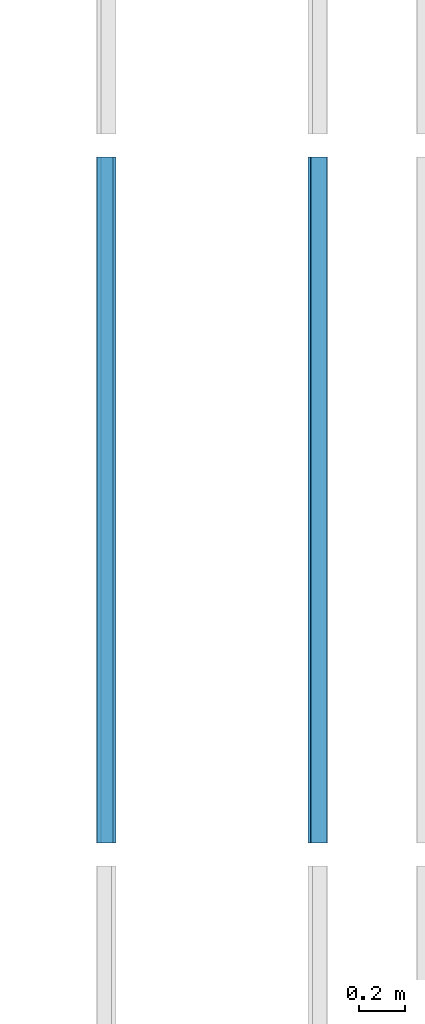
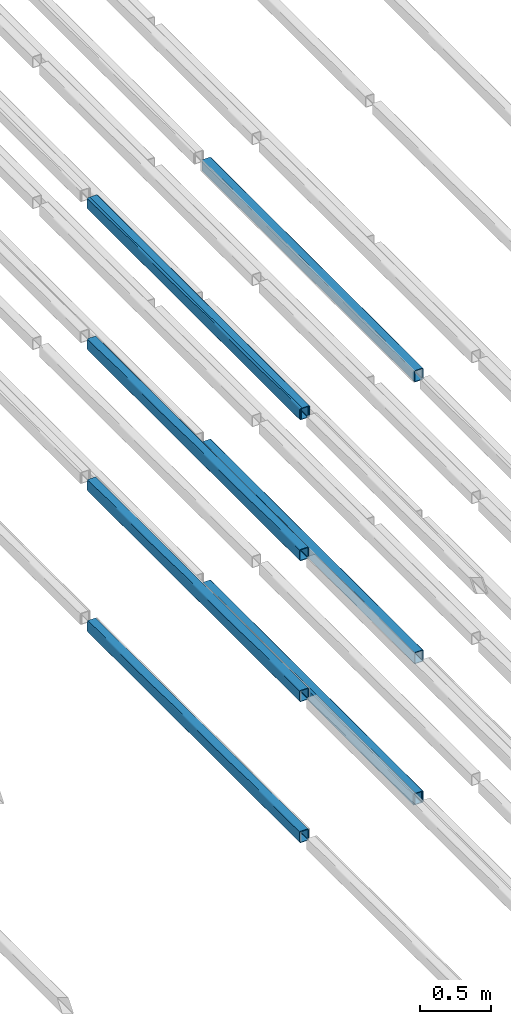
# One storey, part 41 of 290: 9 beams.
"""IFC2X3 building model written with IfcOpenShell, lengths in metres."""

from ifc_helpers import new_model, entity, si_unit, converted_unit, derived_unit, direction, frame, frame_2d, origin, place, context, subcontext, project, spatial, polyline, circle_curve, parameter, trimmed, segment, composite_curve, outline, extrude, material, type_object, element, save


model = new_model("IFC2X3")

# Units and contexts
model_context = context("Model", 3, precision=1e-05, world=origin(), true_north=direction((6.12303176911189e-17, 1.0)))
body_context = subcontext(model_context, "Body", "Model", "MODEL_VIEW")
ifc_project = project(units=[si_unit("LENGTHUNIT", "METRE"), si_unit("AREAUNIT", "SQUARE_METRE"), si_unit("VOLUMEUNIT", "CUBIC_METRE"), converted_unit("PLANEANGLEUNIT", "DEGREE", entity("IfcRatioMeasure", 0.0174532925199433), si_unit("PLANEANGLEUNIT", "RADIAN"), dimensions=[0, 0, 0, 0, 0, 0, 0]), si_unit("MASSUNIT", "GRAM", prefix="KILO"), derived_unit("MASSDENSITYUNIT", [(si_unit("MASSUNIT", "GRAM", prefix="KILO"), 1), (si_unit("LENGTHUNIT", "METRE"), -3)]), derived_unit("MOMENTOFINERTIAUNIT", [(si_unit("LENGTHUNIT", "METRE"), 4)]), si_unit("TIMEUNIT", "SECOND"), si_unit("FREQUENCYUNIT", "HERTZ"), si_unit("THERMODYNAMICTEMPERATUREUNIT", "DEGREE_CELSIUS"), derived_unit("THERMALTRANSMITTANCEUNIT", [(si_unit("MASSUNIT", "GRAM", prefix="KILO"), 1), (si_unit("THERMODYNAMICTEMPERATUREUNIT", "KELVIN"), -1), (si_unit("TIMEUNIT", "SECOND"), -3)]), derived_unit("VOLUMETRICFLOWRATEUNIT", [(si_unit("LENGTHUNIT", "METRE"), 3), (si_unit("TIMEUNIT", "SECOND"), -1)]), si_unit("ELECTRICCURRENTUNIT", "AMPERE"), si_unit("ELECTRICVOLTAGEUNIT", "VOLT"), si_unit("POWERUNIT", "WATT"), si_unit("FORCEUNIT", "NEWTON", prefix="KILO"), si_unit("ILLUMINANCEUNIT", "LUX"), si_unit("LUMINOUSFLUXUNIT", "LUMEN"), si_unit("LUMINOUSINTENSITYUNIT", "CANDELA"), derived_unit("USERDEFINED", [(si_unit("MASSUNIT", "GRAM", prefix="KILO"), -1), (si_unit("LENGTHUNIT", "METRE"), -2), (si_unit("TIMEUNIT", "SECOND"), 3), (si_unit("LUMINOUSFLUXUNIT", "LUMEN"), 1)]), derived_unit("LINEARVELOCITYUNIT", [(si_unit("LENGTHUNIT", "METRE"), 1), (si_unit("TIMEUNIT", "SECOND"), -1)]), si_unit("PRESSUREUNIT", "PASCAL"), derived_unit("USERDEFINED", [(si_unit("LENGTHUNIT", "METRE"), -2), (si_unit("MASSUNIT", "GRAM", prefix="KILO"), 1), (si_unit("TIMEUNIT", "SECOND"), -2)]), derived_unit("LINEARFORCEUNIT", [(si_unit("MASSUNIT", "GRAM", prefix="KILO"), 1), (si_unit("LENGTHUNIT", "METRE"), 1), (si_unit("TIMEUNIT", "SECOND"), -2), (si_unit("LENGTHUNIT", "METRE"), -1)]), derived_unit("PLANARFORCEUNIT", [(si_unit("MASSUNIT", "GRAM", prefix="KILO"), 1), (si_unit("LENGTHUNIT", "METRE"), 1), (si_unit("TIMEUNIT", "SECOND"), -2), (si_unit("LENGTHUNIT", "METRE"), -2)])], contexts=[model_context])

# Site, building, storey
site_placement = place(None, origin())
site = spatial("IfcSite", under=ifc_project, at=site_placement, Name="Default", CompositionType="ELEMENT")
building_placement = place(site_placement, origin())
building = spatial("IfcBuilding", under=site, at=building_placement, CompositionType="ELEMENT")
storey_placement = place(building_placement, frame((0.0, 0.0, 4.0)))
storey = spatial("IfcBuildingStorey", under=building, at=storey_placement, Name="01_OG", CompositionType="ELEMENT", Elevation=4.0)

# Beams
ifc_material = material(Name="Metall - Baustahl S235 blau")
beam_type = type_object("IfcBeamType", Name="RHS Träger (EN 10219-2):RHS 100 x 75 x 5", PredefinedType="NOTDEFINED")
beam_1_placement = place(storey_placement, frame((-202.105111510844, 33.348088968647, 2.445), z_axis=(0.0, 0.0, 1.0), x_axis=(0.0, 1.0, 0.0)))
element("IfcBeam", 1, at=beam_1_placement, inside=storey, type_object=beam_type, material=ifc_material, Name="RHS Träger (EN 10219-2):RHS 100 x 75 x 5", ObjectType="RHS Träger (EN 10219-2):RHS 100 x 75 x 5", context=body_context, shape_type="SweptSolid", body=[
    extrude(outline(composite_curve([segment(trimmed(circle_curve(frame_2d((-0.0274999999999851, -0.0399999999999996), x_axis=(1.0, 0.0)), 0.01), [parameter(180.0)], [parameter(270.0)], True, "PARAMETER"), True, "CONTINUOUS"), segment(polyline([(-0.0274999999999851, -0.0499999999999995), (0.0274999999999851, -0.0499999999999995)]), True, "CONTINUOUS"), segment(trimmed(circle_curve(frame_2d((0.0274999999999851, -0.0399999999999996), x_axis=(1.0, 0.0)), 0.01), [parameter(270.0)], [parameter(5.08888749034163e-14)], True, "PARAMETER"), True, "CONTINUOUS"), segment(polyline([(0.0375000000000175, -0.0399999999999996), (0.0375000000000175, 0.0399999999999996)]), True, "CONTINUOUS"), segment(trimmed(circle_curve(frame_2d((0.0274999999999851, 0.0399999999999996), x_axis=(1.0, 0.0)), 0.01), [parameter(360.0)], [parameter(89.9999999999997)], True, "PARAMETER"), True, "CONTINUOUS"), segment(polyline([(0.0274999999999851, 0.0500000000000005), (-0.0274999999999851, 0.0500000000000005)]), True, "CONTINUOUS"), segment(trimmed(circle_curve(frame_2d((-0.0274999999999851, 0.0399999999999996), x_axis=(1.0, 0.0)), 0.01), [parameter(90.0000000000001)], [parameter(180.0)], True, "PARAMETER"), True, "CONTINUOUS"), segment(polyline([(-0.0374999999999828, 0.0399999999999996), (-0.0374999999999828, -0.0399999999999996)]), True, "CONTINUOUS")], self_intersect=False), holes=[composite_curve([segment(polyline([(0.0274999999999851, -0.0450000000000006), (-0.0274999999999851, -0.0450000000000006)]), True, "CONTINUOUS"), segment(trimmed(circle_curve(frame_2d((-0.0274999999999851, -0.0400000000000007), x_axis=(1.0, 0.0)), 0.005), [parameter(180.0)], [parameter(270.0)], True, "PARAMETER"), False, "CONTINUOUS"), segment(polyline([(-0.0325000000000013, -0.0400000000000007), (-0.0325000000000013, 0.0399999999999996)]), True, "CONTINUOUS"), segment(trimmed(circle_curve(frame_2d((-0.0274999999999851, 0.0399999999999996), x_axis=(1.0, 0.0)), 0.005), [parameter(90.0000000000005)], [parameter(180.0)], True, "PARAMETER"), False, "CONTINUOUS"), segment(polyline([(-0.0274999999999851, 0.0449999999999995), (0.0274999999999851, 0.0449999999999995)]), True, "CONTINUOUS"), segment(trimmed(circle_curve(frame_2d((0.0274999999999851, 0.0399999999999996), x_axis=(1.0, 0.0)), 0.005), [parameter(0.0)], [parameter(90.0000000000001)], True, "PARAMETER"), False, "CONTINUOUS"), segment(polyline([(0.0325000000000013, 0.0399999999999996), (0.0325000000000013, -0.0400000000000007)]), True, "CONTINUOUS"), segment(trimmed(circle_curve(frame_2d((0.0274999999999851, -0.0400000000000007), x_axis=(1.0, 0.0)), 0.005), [parameter(270.0)], [parameter(4.07110999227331e-13)], True, "PARAMETER"), False, "CONTINUOUS")], self_intersect=False)]), frame((9.99999999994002e-05, 0.0375000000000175, -0.0500000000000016), z_axis=(1.0, 0.0, 0.0), x_axis=(0.0, -1.0, 0.0)), (0.0, 0.0, 1.0), 2.9998),
])
beam_2_placement = place(storey_placement, frame((-201.255111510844, 33.348088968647, -1.2), z_axis=(0.0, 0.0, 1.0), x_axis=(0.0, 1.0, 0.0)))
element("IfcBeam", 2, at=beam_2_placement, inside=storey, type_object=beam_type, material=ifc_material, Name="RHS Träger (EN 10219-2):RHS 100 x 75 x 5", ObjectType="RHS Träger (EN 10219-2):RHS 100 x 75 x 5", context=body_context, shape_type="SweptSolid", body=[
    extrude(outline(composite_curve([segment(polyline([(-0.0400000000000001, -0.0374999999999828), (0.0400000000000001, -0.0374999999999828)]), True, "CONTINUOUS"), segment(trimmed(circle_curve(frame_2d((0.0400000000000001, -0.0274999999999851), x_axis=(0.0, 1.0)), 0.01), [parameter(180.0)], [parameter(270.0)], True, "PARAMETER"), True, "CONTINUOUS"), segment(polyline([(0.05, -0.0274999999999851), (0.05, 0.0274999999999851)]), True, "CONTINUOUS"), segment(trimmed(circle_curve(frame_2d((0.0400000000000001, 0.0274999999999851), x_axis=(0.0, 1.0)), 0.01), [parameter(270.0)], [parameter(4.07110999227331e-13)], True, "PARAMETER"), True, "CONTINUOUS"), segment(polyline([(0.0400000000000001, 0.0375000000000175), (-0.0400000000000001, 0.0375000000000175)]), True, "CONTINUOUS"), segment(trimmed(circle_curve(frame_2d((-0.0400000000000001, 0.0274999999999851), x_axis=(0.0, 1.0)), 0.01), [parameter(360.0)], [parameter(90.0000000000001)], True, "PARAMETER"), True, "CONTINUOUS"), segment(polyline([(-0.05, 0.0274999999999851), (-0.05, -0.0274999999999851)]), True, "CONTINUOUS"), segment(trimmed(circle_curve(frame_2d((-0.0400000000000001, -0.0274999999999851), x_axis=(0.0, 1.0)), 0.01), [parameter(90.0000000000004)], [parameter(180.0)], True, "PARAMETER"), True, "CONTINUOUS")], self_intersect=False), holes=[composite_curve([segment(trimmed(circle_curve(frame_2d((-0.0400000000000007, 0.0274999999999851), x_axis=(0.0, 1.0)), 0.005), [parameter(360.0)], [parameter(89.9999999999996)], True, "PARAMETER"), False, "CONTINUOUS"), segment(polyline([(-0.0400000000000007, 0.0325000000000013), (0.039999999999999, 0.0325000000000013)]), True, "CONTINUOUS"), segment(trimmed(circle_curve(frame_2d((0.039999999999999, 0.0274999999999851), x_axis=(0.0, 1.0)), 0.005), [parameter(270.0)], [parameter(0.0)], True, "PARAMETER"), False, "CONTINUOUS"), segment(polyline([(0.044999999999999, 0.0274999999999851), (0.044999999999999, -0.0274999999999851)]), True, "CONTINUOUS"), segment(trimmed(circle_curve(frame_2d((0.039999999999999, -0.0274999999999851), x_axis=(0.0, 1.0)), 0.005), [parameter(180.0)], [parameter(269.999999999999)], True, "PARAMETER"), False, "CONTINUOUS"), segment(polyline([(0.039999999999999, -0.0325000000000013), (-0.0400000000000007, -0.0325000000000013)]), True, "CONTINUOUS"), segment(trimmed(circle_curve(frame_2d((-0.0400000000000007, -0.0274999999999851), x_axis=(0.0, 1.0)), 0.005), [parameter(90.0000000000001)], [parameter(180.0)], True, "PARAMETER"), False, "CONTINUOUS"), segment(polyline([(-0.0450000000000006, -0.0274999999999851), (-0.0450000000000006, 0.0274999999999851)]), True, "CONTINUOUS")], self_intersect=False)]), frame((9.99999999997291e-05, -0.0375000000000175, -0.0500000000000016), z_axis=(1.0, 0.0, 0.0), x_axis=(0.0, 0.0, -1.0)), (0.0, 0.0, 1.0), 2.9998),
])
beam_3_placement = place(storey_placement, frame((-201.255111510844, 33.348088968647, 0.0150000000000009), z_axis=(0.0, 0.0, 1.0), x_axis=(0.0, 1.0, 0.0)))
element("IfcBeam", 3, at=beam_3_placement, inside=storey, type_object=beam_type, material=ifc_material, Name="RHS Träger (EN 10219-2):RHS 100 x 75 x 5", ObjectType="RHS Träger (EN 10219-2):RHS 100 x 75 x 5", context=body_context, shape_type="SweptSolid", body=[
    extrude(outline(composite_curve([segment(polyline([(-0.0400000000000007, -0.0374999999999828), (0.0399999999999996, -0.0374999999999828)]), True, "CONTINUOUS"), segment(trimmed(circle_curve(frame_2d((0.0399999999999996, -0.0274999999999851), x_axis=(0.0, 1.0)), 0.01), [parameter(180.0)], [parameter(270.0)], True, "PARAMETER"), True, "CONTINUOUS"), segment(polyline([(0.0499999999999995, -0.0274999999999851), (0.0499999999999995, 0.0274999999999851)]), True, "CONTINUOUS"), segment(trimmed(circle_curve(frame_2d((0.0399999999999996, 0.0274999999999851), x_axis=(0.0, 1.0)), 0.01), [parameter(270.0)], [parameter(4.07110999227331e-13)], True, "PARAMETER"), True, "CONTINUOUS"), segment(polyline([(0.0399999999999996, 0.0375000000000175), (-0.0400000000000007, 0.0375000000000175)]), True, "CONTINUOUS"), segment(trimmed(circle_curve(frame_2d((-0.0400000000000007, 0.0274999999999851), x_axis=(0.0, 1.0)), 0.01), [parameter(360.0)], [parameter(90.0000000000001)], True, "PARAMETER"), True, "CONTINUOUS"), segment(polyline([(-0.0500000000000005, 0.0274999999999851), (-0.0500000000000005, -0.0274999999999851)]), True, "CONTINUOUS"), segment(trimmed(circle_curve(frame_2d((-0.0400000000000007, -0.0274999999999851), x_axis=(0.0, 1.0)), 0.01), [parameter(90.0000000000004)], [parameter(180.0)], True, "PARAMETER"), True, "CONTINUOUS")], self_intersect=False), holes=[composite_curve([segment(trimmed(circle_curve(frame_2d((-0.0400000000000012, 0.0274999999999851), x_axis=(0.0, 1.0)), 0.005), [parameter(360.0)], [parameter(89.9999999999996)], True, "PARAMETER"), False, "CONTINUOUS"), segment(polyline([(-0.0400000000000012, 0.0325000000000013), (0.0399999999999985, 0.0325000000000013)]), True, "CONTINUOUS"), segment(trimmed(circle_curve(frame_2d((0.0399999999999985, 0.0274999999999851), x_axis=(0.0, 1.0)), 0.005), [parameter(270.0)], [parameter(0.0)], True, "PARAMETER"), False, "CONTINUOUS"), segment(polyline([(0.0449999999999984, 0.0274999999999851), (0.0449999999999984, -0.0274999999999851)]), True, "CONTINUOUS"), segment(trimmed(circle_curve(frame_2d((0.0399999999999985, -0.0274999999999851), x_axis=(0.0, 1.0)), 0.005), [parameter(180.0)], [parameter(269.999999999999)], True, "PARAMETER"), False, "CONTINUOUS"), segment(polyline([(0.0399999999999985, -0.0325000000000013), (-0.0400000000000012, -0.0325000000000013)]), True, "CONTINUOUS"), segment(trimmed(circle_curve(frame_2d((-0.0400000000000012, -0.0274999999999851), x_axis=(0.0, 1.0)), 0.005), [parameter(90.0000000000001)], [parameter(180.0)], True, "PARAMETER"), False, "CONTINUOUS"), segment(polyline([(-0.0450000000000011, -0.0274999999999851), (-0.0450000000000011, 0.0274999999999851)]), True, "CONTINUOUS")], self_intersect=False)]), frame((9.99999999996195e-05, -0.0375000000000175, -0.0500000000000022), z_axis=(1.0, 0.0, 0.0), x_axis=(0.0, 0.0, -1.0)), (0.0, 0.0, 1.0), 2.9998),
])
beam_4_placement = place(storey_placement, frame((-201.255111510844, 33.348088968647, 2.445), z_axis=(0.0, 0.0, 1.0), x_axis=(0.0, 1.0, 0.0)))
element("IfcBeam", 4, at=beam_4_placement, inside=storey, type_object=beam_type, material=ifc_material, Name="RHS Träger (EN 10219-2):RHS 100 x 75 x 5", ObjectType="RHS Träger (EN 10219-2):RHS 100 x 75 x 5", context=body_context, shape_type="SweptSolid", body=[
    extrude(outline(composite_curve([segment(polyline([(-0.0399999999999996, -0.0374999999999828), (0.0399999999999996, -0.0374999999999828)]), True, "CONTINUOUS"), segment(trimmed(circle_curve(frame_2d((0.0399999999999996, -0.0274999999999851), x_axis=(0.0, 1.0)), 0.01), [parameter(180.0)], [parameter(270.0)], True, "PARAMETER"), True, "CONTINUOUS"), segment(polyline([(0.0500000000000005, -0.0274999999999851), (0.0500000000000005, 0.0274999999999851)]), True, "CONTINUOUS"), segment(trimmed(circle_curve(frame_2d((0.0399999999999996, 0.0274999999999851), x_axis=(0.0, 1.0)), 0.01), [parameter(270.0)], [parameter(4.07110999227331e-13)], True, "PARAMETER"), True, "CONTINUOUS"), segment(polyline([(0.0399999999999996, 0.0375000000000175), (-0.0399999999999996, 0.0375000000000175)]), True, "CONTINUOUS"), segment(trimmed(circle_curve(frame_2d((-0.0399999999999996, 0.0274999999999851), x_axis=(0.0, 1.0)), 0.01), [parameter(360.0)], [parameter(90.0000000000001)], True, "PARAMETER"), True, "CONTINUOUS"), segment(polyline([(-0.0499999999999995, 0.0274999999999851), (-0.0499999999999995, -0.0274999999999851)]), True, "CONTINUOUS"), segment(trimmed(circle_curve(frame_2d((-0.0399999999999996, -0.0274999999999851), x_axis=(0.0, 1.0)), 0.01), [parameter(90.0000000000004)], [parameter(180.0)], True, "PARAMETER"), True, "CONTINUOUS")], self_intersect=False), holes=[composite_curve([segment(trimmed(circle_curve(frame_2d((-0.0400000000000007, 0.0274999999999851), x_axis=(0.0, 1.0)), 0.005), [parameter(360.0)], [parameter(89.9999999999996)], True, "PARAMETER"), False, "CONTINUOUS"), segment(polyline([(-0.0400000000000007, 0.0325000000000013), (0.0399999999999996, 0.0325000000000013)]), True, "CONTINUOUS"), segment(trimmed(circle_curve(frame_2d((0.0399999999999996, 0.0274999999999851), x_axis=(0.0, 1.0)), 0.005), [parameter(270.0)], [parameter(0.0)], True, "PARAMETER"), False, "CONTINUOUS"), segment(polyline([(0.0449999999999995, 0.0274999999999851), (0.0449999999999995, -0.0274999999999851)]), True, "CONTINUOUS"), segment(trimmed(circle_curve(frame_2d((0.0399999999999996, -0.0274999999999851), x_axis=(0.0, 1.0)), 0.005), [parameter(180.0)], [parameter(269.999999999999)], True, "PARAMETER"), False, "CONTINUOUS"), segment(polyline([(0.0399999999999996, -0.0325000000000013), (-0.0400000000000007, -0.0325000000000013)]), True, "CONTINUOUS"), segment(trimmed(circle_curve(frame_2d((-0.0400000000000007, -0.0274999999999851), x_axis=(0.0, 1.0)), 0.005), [parameter(90.0000000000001)], [parameter(180.0)], True, "PARAMETER"), False, "CONTINUOUS"), segment(polyline([(-0.0450000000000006, -0.0274999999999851), (-0.0450000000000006, 0.0274999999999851)]), True, "CONTINUOUS")], self_intersect=False)]), frame((9.99999999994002e-05, -0.0375000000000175, -0.0500000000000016), z_axis=(1.0, 0.0, 0.0), x_axis=(0.0, 0.0, -1.0)), (0.0, 0.0, 1.0), 2.9998),
])
beam_5_placement = place(storey_placement, frame((-202.115111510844, 33.348088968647, -1.2), z_axis=(0.0, 0.0, 1.0), x_axis=(0.0, 1.0, 0.0)))
element("IfcBeam", 5, at=beam_5_placement, inside=storey, type_object=beam_type, material=ifc_material, Name="RHS Träger (EN 10219-2):RHS 100 x 75 x 5", ObjectType="RHS Träger (EN 10219-2):RHS 100 x 75 x 5", context=body_context, shape_type="SweptSolid", body=[
    extrude(outline(composite_curve([segment(trimmed(circle_curve(frame_2d((-0.0274999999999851, -0.0400000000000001), x_axis=(1.0, 0.0)), 0.01), [parameter(180.0)], [parameter(270.0)], True, "PARAMETER"), True, "CONTINUOUS"), segment(polyline([(-0.0274999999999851, -0.05), (0.0274999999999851, -0.05)]), True, "CONTINUOUS"), segment(trimmed(circle_curve(frame_2d((0.0274999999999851, -0.0400000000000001), x_axis=(1.0, 0.0)), 0.01), [parameter(270.0)], [parameter(5.08888749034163e-14)], True, "PARAMETER"), True, "CONTINUOUS"), segment(polyline([(0.0375000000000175, -0.0400000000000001), (0.0375000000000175, 0.0400000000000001)]), True, "CONTINUOUS"), segment(trimmed(circle_curve(frame_2d((0.0274999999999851, 0.0400000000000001), x_axis=(1.0, 0.0)), 0.01), [parameter(360.0)], [parameter(89.9999999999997)], True, "PARAMETER"), True, "CONTINUOUS"), segment(polyline([(0.0274999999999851, 0.05), (-0.0274999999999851, 0.05)]), True, "CONTINUOUS"), segment(trimmed(circle_curve(frame_2d((-0.0274999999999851, 0.0400000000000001), x_axis=(1.0, 0.0)), 0.01), [parameter(90.0000000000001)], [parameter(180.0)], True, "PARAMETER"), True, "CONTINUOUS"), segment(polyline([(-0.0374999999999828, 0.0400000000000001), (-0.0374999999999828, -0.0400000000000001)]), True, "CONTINUOUS")], self_intersect=False), holes=[composite_curve([segment(polyline([(0.0274999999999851, -0.0450000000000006), (-0.0274999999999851, -0.0450000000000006)]), True, "CONTINUOUS"), segment(trimmed(circle_curve(frame_2d((-0.0274999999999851, -0.0400000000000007), x_axis=(1.0, 0.0)), 0.005), [parameter(180.0)], [parameter(270.0)], True, "PARAMETER"), False, "CONTINUOUS"), segment(polyline([(-0.0325000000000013, -0.0400000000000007), (-0.0325000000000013, 0.039999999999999)]), True, "CONTINUOUS"), segment(trimmed(circle_curve(frame_2d((-0.0274999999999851, 0.039999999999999), x_axis=(1.0, 0.0)), 0.005), [parameter(90.0000000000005)], [parameter(180.0)], True, "PARAMETER"), False, "CONTINUOUS"), segment(polyline([(-0.0274999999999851, 0.044999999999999), (0.0274999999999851, 0.044999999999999)]), True, "CONTINUOUS"), segment(trimmed(circle_curve(frame_2d((0.0274999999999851, 0.039999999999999), x_axis=(1.0, 0.0)), 0.005), [parameter(0.0)], [parameter(90.0000000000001)], True, "PARAMETER"), False, "CONTINUOUS"), segment(polyline([(0.0325000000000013, 0.039999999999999), (0.0325000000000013, -0.0400000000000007)]), True, "CONTINUOUS"), segment(trimmed(circle_curve(frame_2d((0.0274999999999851, -0.0400000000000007), x_axis=(1.0, 0.0)), 0.005), [parameter(270.0)], [parameter(4.07110999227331e-13)], True, "PARAMETER"), False, "CONTINUOUS")], self_intersect=False)]), frame((9.99999999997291e-05, 0.0375000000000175, -0.0500000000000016), z_axis=(1.0, 0.0, 0.0), x_axis=(0.0, -1.0, 0.0)), (0.0, 0.0, 1.0), 2.9998),
])
beam_6_placement = place(storey_placement, frame((-202.115111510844, 33.348088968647, 0.0150000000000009), z_axis=(0.0, 0.0, 1.0), x_axis=(0.0, 1.0, 0.0)))
element("IfcBeam", 6, at=beam_6_placement, inside=storey, type_object=beam_type, material=ifc_material, Name="RHS Träger (EN 10219-2):RHS 100 x 75 x 5", ObjectType="RHS Träger (EN 10219-2):RHS 100 x 75 x 5", context=body_context, shape_type="SweptSolid", body=[
    extrude(outline(composite_curve([segment(trimmed(circle_curve(frame_2d((-0.0274999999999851, -0.0400000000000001), x_axis=(1.0, 0.0)), 0.01), [parameter(180.0)], [parameter(270.0)], True, "PARAMETER"), True, "CONTINUOUS"), segment(polyline([(-0.0274999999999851, -0.05), (0.0274999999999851, -0.05)]), True, "CONTINUOUS"), segment(trimmed(circle_curve(frame_2d((0.0274999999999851, -0.0400000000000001), x_axis=(1.0, 0.0)), 0.01), [parameter(270.0)], [parameter(5.08888749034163e-14)], True, "PARAMETER"), True, "CONTINUOUS"), segment(polyline([(0.0375000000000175, -0.0400000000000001), (0.0375000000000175, 0.0400000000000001)]), True, "CONTINUOUS"), segment(trimmed(circle_curve(frame_2d((0.0274999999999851, 0.0400000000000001), x_axis=(1.0, 0.0)), 0.01), [parameter(360.0)], [parameter(89.9999999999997)], True, "PARAMETER"), True, "CONTINUOUS"), segment(polyline([(0.0274999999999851, 0.05), (-0.0274999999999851, 0.05)]), True, "CONTINUOUS"), segment(trimmed(circle_curve(frame_2d((-0.0274999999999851, 0.0400000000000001), x_axis=(1.0, 0.0)), 0.01), [parameter(90.0000000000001)], [parameter(180.0)], True, "PARAMETER"), True, "CONTINUOUS"), segment(polyline([(-0.0374999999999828, 0.0400000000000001), (-0.0374999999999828, -0.0400000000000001)]), True, "CONTINUOUS")], self_intersect=False), holes=[composite_curve([segment(polyline([(0.0274999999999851, -0.0450000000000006), (-0.0274999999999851, -0.0450000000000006)]), True, "CONTINUOUS"), segment(trimmed(circle_curve(frame_2d((-0.0274999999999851, -0.0400000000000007), x_axis=(1.0, 0.0)), 0.005), [parameter(180.0)], [parameter(270.0)], True, "PARAMETER"), False, "CONTINUOUS"), segment(polyline([(-0.0325000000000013, -0.0400000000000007), (-0.0325000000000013, 0.039999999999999)]), True, "CONTINUOUS"), segment(trimmed(circle_curve(frame_2d((-0.0274999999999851, 0.039999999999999), x_axis=(1.0, 0.0)), 0.005), [parameter(90.0000000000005)], [parameter(180.0)], True, "PARAMETER"), False, "CONTINUOUS"), segment(polyline([(-0.0274999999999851, 0.044999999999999), (0.0274999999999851, 0.044999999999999)]), True, "CONTINUOUS"), segment(trimmed(circle_curve(frame_2d((0.0274999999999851, 0.039999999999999), x_axis=(1.0, 0.0)), 0.005), [parameter(0.0)], [parameter(90.0000000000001)], True, "PARAMETER"), False, "CONTINUOUS"), segment(polyline([(0.0325000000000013, 0.039999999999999), (0.0325000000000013, -0.0400000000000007)]), True, "CONTINUOUS"), segment(trimmed(circle_curve(frame_2d((0.0274999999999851, -0.0400000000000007), x_axis=(1.0, 0.0)), 0.005), [parameter(270.0)], [parameter(4.07110999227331e-13)], True, "PARAMETER"), False, "CONTINUOUS")], self_intersect=False)]), frame((9.99999999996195e-05, 0.0375000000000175, -0.0500000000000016), z_axis=(1.0, 0.0, 0.0), x_axis=(0.0, -1.0, 0.0)), (0.0, 0.0, 1.0), 2.9998),
])
beam_7_placement = place(storey_placement, frame((-202.115111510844, 33.348088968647, 1.23), z_axis=(0.0, 0.0, 1.0), x_axis=(0.0, 1.0, 0.0)))
element("IfcBeam", 7, at=beam_7_placement, inside=storey, type_object=beam_type, material=ifc_material, Name="RHS Träger (EN 10219-2):RHS 100 x 75 x 5", ObjectType="RHS Träger (EN 10219-2):RHS 100 x 75 x 5", context=body_context, shape_type="SweptSolid", body=[
    extrude(outline(composite_curve([segment(trimmed(circle_curve(frame_2d((-0.0274999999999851, -0.0399999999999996), x_axis=(1.0, 0.0)), 0.01), [parameter(180.0)], [parameter(270.0)], True, "PARAMETER"), True, "CONTINUOUS"), segment(polyline([(-0.0274999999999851, -0.0499999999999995), (0.0274999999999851, -0.0499999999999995)]), True, "CONTINUOUS"), segment(trimmed(circle_curve(frame_2d((0.0274999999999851, -0.0399999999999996), x_axis=(1.0, 0.0)), 0.01), [parameter(270.0)], [parameter(5.08888749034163e-14)], True, "PARAMETER"), True, "CONTINUOUS"), segment(polyline([(0.0375000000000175, -0.0399999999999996), (0.0375000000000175, 0.0399999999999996)]), True, "CONTINUOUS"), segment(trimmed(circle_curve(frame_2d((0.0274999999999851, 0.0399999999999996), x_axis=(1.0, 0.0)), 0.01), [parameter(360.0)], [parameter(89.9999999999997)], True, "PARAMETER"), True, "CONTINUOUS"), segment(polyline([(0.0274999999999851, 0.0500000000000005), (-0.0274999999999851, 0.0500000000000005)]), True, "CONTINUOUS"), segment(trimmed(circle_curve(frame_2d((-0.0274999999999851, 0.0399999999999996), x_axis=(1.0, 0.0)), 0.01), [parameter(90.0000000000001)], [parameter(180.0)], True, "PARAMETER"), True, "CONTINUOUS"), segment(polyline([(-0.0374999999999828, 0.0399999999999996), (-0.0374999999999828, -0.0399999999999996)]), True, "CONTINUOUS")], self_intersect=False), holes=[composite_curve([segment(polyline([(0.0274999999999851, -0.0450000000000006), (-0.0274999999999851, -0.0450000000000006)]), True, "CONTINUOUS"), segment(trimmed(circle_curve(frame_2d((-0.0274999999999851, -0.0400000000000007), x_axis=(1.0, 0.0)), 0.005), [parameter(180.0)], [parameter(270.0)], True, "PARAMETER"), False, "CONTINUOUS"), segment(polyline([(-0.0325000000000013, -0.0400000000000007), (-0.0325000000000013, 0.0399999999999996)]), True, "CONTINUOUS"), segment(trimmed(circle_curve(frame_2d((-0.0274999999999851, 0.0399999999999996), x_axis=(1.0, 0.0)), 0.005), [parameter(90.0000000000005)], [parameter(180.0)], True, "PARAMETER"), False, "CONTINUOUS"), segment(polyline([(-0.0274999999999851, 0.0449999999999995), (0.0274999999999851, 0.0449999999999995)]), True, "CONTINUOUS"), segment(trimmed(circle_curve(frame_2d((0.0274999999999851, 0.0399999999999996), x_axis=(1.0, 0.0)), 0.005), [parameter(0.0)], [parameter(90.0000000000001)], True, "PARAMETER"), False, "CONTINUOUS"), segment(polyline([(0.0325000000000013, 0.0399999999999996), (0.0325000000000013, -0.0400000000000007)]), True, "CONTINUOUS"), segment(trimmed(circle_curve(frame_2d((0.0274999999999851, -0.0400000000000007), x_axis=(1.0, 0.0)), 0.005), [parameter(270.0)], [parameter(4.07110999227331e-13)], True, "PARAMETER"), False, "CONTINUOUS")], self_intersect=False)]), frame((9.99999999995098e-05, 0.0375000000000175, -0.0500000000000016), z_axis=(1.0, 0.0, 0.0), x_axis=(0.0, -1.0, 0.0)), (0.0, 0.0, 1.0), 2.9998),
])
beam_8_placement = place(storey_placement, frame((-202.115111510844, 33.348088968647, 2.445), z_axis=(0.0, 0.0, 1.0), x_axis=(0.0, 1.0, 0.0)))
element("IfcBeam", 8, at=beam_8_placement, inside=storey, type_object=beam_type, material=ifc_material, Name="RHS Träger (EN 10219-2):RHS 100 x 75 x 5", ObjectType="RHS Träger (EN 10219-2):RHS 100 x 75 x 5", context=body_context, shape_type="SweptSolid", body=[
    extrude(outline(composite_curve([segment(trimmed(circle_curve(frame_2d((-0.0274999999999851, -0.0399999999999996), x_axis=(1.0, 0.0)), 0.01), [parameter(180.0)], [parameter(270.0)], True, "PARAMETER"), True, "CONTINUOUS"), segment(polyline([(-0.0274999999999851, -0.0499999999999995), (0.0274999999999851, -0.0499999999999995)]), True, "CONTINUOUS"), segment(trimmed(circle_curve(frame_2d((0.0274999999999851, -0.0399999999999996), x_axis=(1.0, 0.0)), 0.01), [parameter(270.0)], [parameter(5.08888749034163e-14)], True, "PARAMETER"), True, "CONTINUOUS"), segment(polyline([(0.0375000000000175, -0.0399999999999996), (0.0375000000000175, 0.0399999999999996)]), True, "CONTINUOUS"), segment(trimmed(circle_curve(frame_2d((0.0274999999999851, 0.0399999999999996), x_axis=(1.0, 0.0)), 0.01), [parameter(360.0)], [parameter(89.9999999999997)], True, "PARAMETER"), True, "CONTINUOUS"), segment(polyline([(0.0274999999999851, 0.0500000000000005), (-0.0274999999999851, 0.0500000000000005)]), True, "CONTINUOUS"), segment(trimmed(circle_curve(frame_2d((-0.0274999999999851, 0.0399999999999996), x_axis=(1.0, 0.0)), 0.01), [parameter(90.0000000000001)], [parameter(180.0)], True, "PARAMETER"), True, "CONTINUOUS"), segment(polyline([(-0.0374999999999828, 0.0399999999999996), (-0.0374999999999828, -0.0399999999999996)]), True, "CONTINUOUS")], self_intersect=False), holes=[composite_curve([segment(polyline([(0.0274999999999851, -0.0450000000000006), (-0.0274999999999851, -0.0450000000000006)]), True, "CONTINUOUS"), segment(trimmed(circle_curve(frame_2d((-0.0274999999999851, -0.0400000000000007), x_axis=(1.0, 0.0)), 0.005), [parameter(180.0)], [parameter(270.0)], True, "PARAMETER"), False, "CONTINUOUS"), segment(polyline([(-0.0325000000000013, -0.0400000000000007), (-0.0325000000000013, 0.0399999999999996)]), True, "CONTINUOUS"), segment(trimmed(circle_curve(frame_2d((-0.0274999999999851, 0.0399999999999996), x_axis=(1.0, 0.0)), 0.005), [parameter(90.0000000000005)], [parameter(180.0)], True, "PARAMETER"), False, "CONTINUOUS"), segment(polyline([(-0.0274999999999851, 0.0449999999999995), (0.0274999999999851, 0.0449999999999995)]), True, "CONTINUOUS"), segment(trimmed(circle_curve(frame_2d((0.0274999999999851, 0.0399999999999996), x_axis=(1.0, 0.0)), 0.005), [parameter(0.0)], [parameter(90.0000000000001)], True, "PARAMETER"), False, "CONTINUOUS"), segment(polyline([(0.0325000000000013, 0.0399999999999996), (0.0325000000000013, -0.0400000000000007)]), True, "CONTINUOUS"), segment(trimmed(circle_curve(frame_2d((0.0274999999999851, -0.0400000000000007), x_axis=(1.0, 0.0)), 0.005), [parameter(270.0)], [parameter(4.07110999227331e-13)], True, "PARAMETER"), False, "CONTINUOUS")], self_intersect=False)]), frame((9.99999999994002e-05, 0.0375000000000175, -0.0500000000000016), z_axis=(1.0, 0.0, 0.0), x_axis=(0.0, -1.0, 0.0)), (0.0, 0.0, 1.0), 2.9998),
])
beam_9_placement = place(storey_placement, frame((-201.265111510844, 33.348088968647, -1.2), z_axis=(0.0, 0.0, 1.0), x_axis=(0.0, 1.0, 0.0)))
element("IfcBeam", 9, at=beam_9_placement, inside=storey, type_object=beam_type, material=ifc_material, Name="RHS Träger (EN 10219-2):RHS 100 x 75 x 5", ObjectType="RHS Träger (EN 10219-2):RHS 100 x 75 x 5", context=body_context, shape_type="SweptSolid", body=[
    extrude(outline(composite_curve([segment(polyline([(-0.0400000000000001, -0.0374999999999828), (0.0400000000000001, -0.0374999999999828)]), True, "CONTINUOUS"), segment(trimmed(circle_curve(frame_2d((0.0400000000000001, -0.0274999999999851), x_axis=(0.0, 1.0)), 0.01), [parameter(180.0)], [parameter(270.0)], True, "PARAMETER"), True, "CONTINUOUS"), segment(polyline([(0.05, -0.0274999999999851), (0.05, 0.0274999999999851)]), True, "CONTINUOUS"), segment(trimmed(circle_curve(frame_2d((0.0400000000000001, 0.0274999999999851), x_axis=(0.0, 1.0)), 0.01), [parameter(270.0)], [parameter(4.07110999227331e-13)], True, "PARAMETER"), True, "CONTINUOUS"), segment(polyline([(0.0400000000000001, 0.0375000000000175), (-0.0400000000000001, 0.0375000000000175)]), True, "CONTINUOUS"), segment(trimmed(circle_curve(frame_2d((-0.0400000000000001, 0.0274999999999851), x_axis=(0.0, 1.0)), 0.01), [parameter(360.0)], [parameter(90.0000000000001)], True, "PARAMETER"), True, "CONTINUOUS"), segment(polyline([(-0.05, 0.0274999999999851), (-0.05, -0.0274999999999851)]), True, "CONTINUOUS"), segment(trimmed(circle_curve(frame_2d((-0.0400000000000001, -0.0274999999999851), x_axis=(0.0, 1.0)), 0.01), [parameter(90.0000000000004)], [parameter(180.0)], True, "PARAMETER"), True, "CONTINUOUS")], self_intersect=False), holes=[composite_curve([segment(trimmed(circle_curve(frame_2d((-0.0400000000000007, 0.0274999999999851), x_axis=(0.0, 1.0)), 0.005), [parameter(360.0)], [parameter(89.9999999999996)], True, "PARAMETER"), False, "CONTINUOUS"), segment(polyline([(-0.0400000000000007, 0.0325000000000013), (0.039999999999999, 0.0325000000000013)]), True, "CONTINUOUS"), segment(trimmed(circle_curve(frame_2d((0.039999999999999, 0.0274999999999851), x_axis=(0.0, 1.0)), 0.005), [parameter(270.0)], [parameter(0.0)], True, "PARAMETER"), False, "CONTINUOUS"), segment(polyline([(0.044999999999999, 0.0274999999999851), (0.044999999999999, -0.0274999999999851)]), True, "CONTINUOUS"), segment(trimmed(circle_curve(frame_2d((0.039999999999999, -0.0274999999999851), x_axis=(0.0, 1.0)), 0.005), [parameter(180.0)], [parameter(269.999999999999)], True, "PARAMETER"), False, "CONTINUOUS"), segment(polyline([(0.039999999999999, -0.0325000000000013), (-0.0400000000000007, -0.0325000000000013)]), True, "CONTINUOUS"), segment(trimmed(circle_curve(frame_2d((-0.0400000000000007, -0.0274999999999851), x_axis=(0.0, 1.0)), 0.005), [parameter(90.0000000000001)], [parameter(180.0)], True, "PARAMETER"), False, "CONTINUOUS"), segment(polyline([(-0.0450000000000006, -0.0274999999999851), (-0.0450000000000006, 0.0274999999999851)]), True, "CONTINUOUS")], self_intersect=False)]), frame((9.99999999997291e-05, -0.0375000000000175, -0.0500000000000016), z_axis=(1.0, 0.0, 0.0), x_axis=(0.0, 0.0, -1.0)), (0.0, 0.0, 1.0), 2.9998),
])

save(model, "model.ifc")
